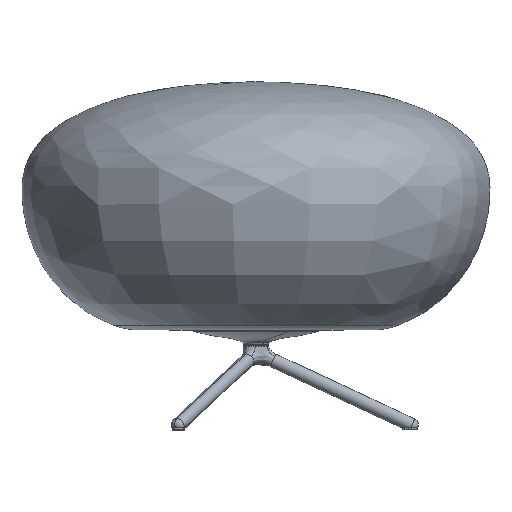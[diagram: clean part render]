
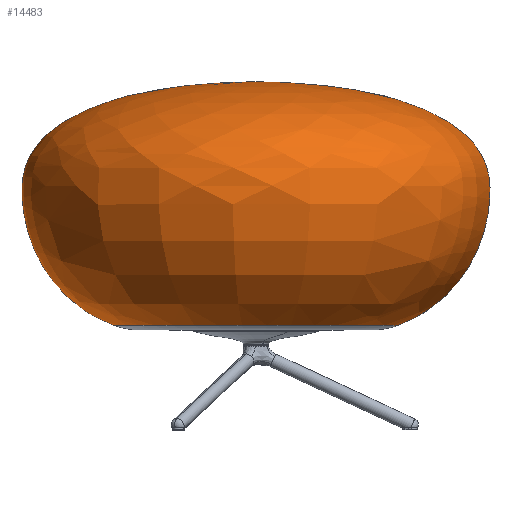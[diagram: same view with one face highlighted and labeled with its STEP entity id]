
A CAD part, top view. The second image highlights one B-rep face of the part: STEP entity #14483.
In plain terms, the highlighted free-form (B-spline) face has degree [3, 3] with [6, 4] control points.
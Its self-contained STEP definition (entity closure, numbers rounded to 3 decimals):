
#1592 = CARTESIAN_POINT ( 'NONE',  ( 112.649, 196.92, 38.457 ) ) ;
#2624 = FACE_OUTER_BOUND ( 'NONE', #24198, .T. ) ;
#5496 = CARTESIAN_POINT ( 'NONE',  ( -151.765, 220.052, 174.798 ) ) ;
#5685 = CARTESIAN_POINT ( 'NONE',  ( -228.24, 60.237, 296.241 ) ) ;
#5971 = ORIENTED_EDGE ( 'NONE', *, *, #22908, .T. ) ;
#6410 = CARTESIAN_POINT ( 'NONE',  ( 46.383, 44.455, 31.92 ) ) ;
#7969 = CIRCLE ( 'NONE', #33491, 102.347 ) ;
#8239 = CARTESIAN_POINT ( 'NONE',  ( -177.416, 44.458, 215.53 ) ) ;
#8423 = CARTESIAN_POINT ( 'NONE',  ( -55.467, 220.051, 21.873 ) ) ;
#8675 = ORIENTED_EDGE ( 'NONE', *, *, #8742, .T. ) ;
#8742 = EDGE_CURVE ( 'NONE', #33688, #11021, #7969, .T. ) ;
#10585 = CARTESIAN_POINT ( 'NONE',  ( 46.383, 44.455, 31.92 ) ) ;
#10948 = CARTESIAN_POINT ( 'NONE',  ( 88.833, 60.234, 36.108 ) ) ;
#11021 = VERTEX_POINT ( 'NONE', #6410 ) ;
#11114 = CARTESIAN_POINT ( 'NONE',  ( 80.775, 105.911, 378.075 ) ) ;
#11888 = ORIENTED_EDGE ( 'NONE', *, *, #21620, .F. ) ;
#13085 = DIRECTION ( 'NONE',  ( -0.995, 0., -0.098 ) ) ;
#13474 = CARTESIAN_POINT ( 'NONE',  ( -256.752, 196.924, 341.522 ) ) ;
#13658 = CARTESIAN_POINT ( 'NONE',  ( -199.771, 60.237, 7.638 ) ) ;
#13860 = CARTESIAN_POINT ( 'NONE',  ( 24.962, 220.05, 29.807 ) ) ;
#14483 = ADVANCED_FACE ( 'NONE', ( #2624 ), #15621, .T. ) ;
#15350 = CARTESIAN_POINT ( 'NONE',  ( 24.962, 220.05, 29.807 ) ) ;
#15621 =( BOUNDED_SURFACE ( )  B_SPLINE_SURFACE ( 3, 3, ( 
 ( #24569, #19325, #35430, #8423 ),
 ( #16225, #5496, #22019, #13860 ),
 ( #33256, #13474, #35608, #29755 ),
 ( #33079, #35796, #11114, #33443 ),
 ( #13658, #5685, #24933, #10948 ),
 ( #19513, #8239, #16584, #10585 ) ),
 .UNSPECIFIED., .F., .F., .F. ) 
 B_SPLINE_SURFACE_WITH_KNOTS ( ( 4, 1, 1, 4 ),
 ( 4, 4 ),
 ( 0., 0.504, 0.602, 0.973 ),
 ( 0., 1. ),
 .UNSPECIFIED. ) 
 GEOMETRIC_REPRESENTATION_ITEM ( )  RATIONAL_B_SPLINE_SURFACE ( (
 ( 1., 0.333, 0.333, 1.),
 ( 1., 0.333, 0.333, 1.),
 ( 1., 0.333, 0.333, 1.),
 ( 1., 0.333, 0.333, 1.),
 ( 1., 0.333, 0.333, 1.),
 ( 1., 0.333, 0.333, 1.) ) ) 
 REPRESENTATION_ITEM ( '' )  SURFACE ( )  );
#15802 = CARTESIAN_POINT ( 'NONE',  ( -225.198, 105.914, 5.13 ) ) ;
#16225 = CARTESIAN_POINT ( 'NONE',  ( -135.897, 220.052, 13.939 ) ) ;
#16584 = CARTESIAN_POINT ( 'NONE',  ( 26.289, 44.456, 235.625 ) ) ;
#17153 = B_SPLINE_CURVE_WITH_KNOTS ( 'NONE', 3,
 ( #23892, #15350, #1592, #26401, #29228, #29412 ),
 .UNSPECIFIED., .F., .F.,
 ( 4, 1, 1, 4 ),
 ( 0., 0.504, 0.602, 0.973 ),
 .UNSPECIFIED. ) ;
#18395 = DIRECTION ( 'NONE',  ( 0., 1., 0. ) ) ;
#19260 = CARTESIAN_POINT ( 'NONE',  ( -223.584, 196.924, 5.289 ) ) ;
#19325 = CARTESIAN_POINT ( 'NONE',  ( -55.467, 220.051, 21.873 ) ) ;
#19513 = CARTESIAN_POINT ( 'NONE',  ( -157.322, 44.458, 11.825 ) ) ;
#21446 = CARTESIAN_POINT ( 'NONE',  ( -135.897, 220.052, 13.939 ) ) ;
#21620 = EDGE_CURVE ( 'NONE', #31815, #11021, #17153, .T. ) ;
#22019 = CARTESIAN_POINT ( 'NONE',  ( 9.094, 220.05, 190.666 ) ) ;
#22908 = EDGE_CURVE ( 'NONE', #31815, #33688, #32509, .T. ) ;
#23892 = CARTESIAN_POINT ( 'NONE',  ( -55.467, 220.051, 21.873 ) ) ;
#24186 = CARTESIAN_POINT ( 'NONE',  ( -55.469, 44.457, 21.873 ) ) ;
#24198 = EDGE_LOOP ( 'NONE', ( #11888, #5971, #8675 ) ) ;
#24569 = CARTESIAN_POINT ( 'NONE',  ( -55.467, 220.051, 21.873 ) ) ;
#24933 = CARTESIAN_POINT ( 'NONE',  ( 60.363, 60.234, 324.711 ) ) ;
#26401 = CARTESIAN_POINT ( 'NONE',  ( 114.261, 105.911, 38.616 ) ) ;
#29228 = CARTESIAN_POINT ( 'NONE',  ( 88.833, 60.234, 36.108 ) ) ;
#29412 = CARTESIAN_POINT ( 'NONE',  ( 46.383, 44.455, 31.92 ) ) ;
#29755 = CARTESIAN_POINT ( 'NONE',  ( 112.649, 196.92, 38.457 ) ) ;
#29872 = CARTESIAN_POINT ( 'NONE',  ( -55.467, 220.051, 21.873 ) ) ;
#29876 = CARTESIAN_POINT ( 'NONE',  ( -55.467, 220.051, 21.873 ) ) ;
#30243 = CARTESIAN_POINT ( 'NONE',  ( -157.322, 44.458, 11.825 ) ) ;
#31216 = CARTESIAN_POINT ( 'NONE',  ( -157.322, 44.458, 11.825 ) ) ;
#31815 = VERTEX_POINT ( 'NONE', #29876 ) ;
#32472 = CARTESIAN_POINT ( 'NONE',  ( -199.771, 60.237, 7.638 ) ) ;
#32509 = B_SPLINE_CURVE_WITH_KNOTS ( 'NONE', 3,
 ( #29872, #21446, #19260, #15802, #32472, #30243 ),
 .UNSPECIFIED., .F., .F.,
 ( 4, 1, 1, 4 ),
 ( 0., 0.504, 0.602, 0.973 ),
 .UNSPECIFIED. ) ;
#33079 = CARTESIAN_POINT ( 'NONE',  ( -225.198, 105.914, 5.13 ) ) ;
#33256 = CARTESIAN_POINT ( 'NONE',  ( -223.584, 196.924, 5.289 ) ) ;
#33443 = CARTESIAN_POINT ( 'NONE',  ( 114.261, 105.911, 38.616 ) ) ;
#33491 = AXIS2_PLACEMENT_3D ( 'NONE', #24186, #18395, #13085 ) ;
#33688 = VERTEX_POINT ( 'NONE', #31216 ) ;
#35430 = CARTESIAN_POINT ( 'NONE',  ( -55.467, 220.051, 21.873 ) ) ;
#35608 = CARTESIAN_POINT ( 'NONE',  ( 79.481, 196.92, 374.69 ) ) ;
#35796 = CARTESIAN_POINT ( 'NONE',  ( -258.684, 105.915, 344.589 ) ) ;
